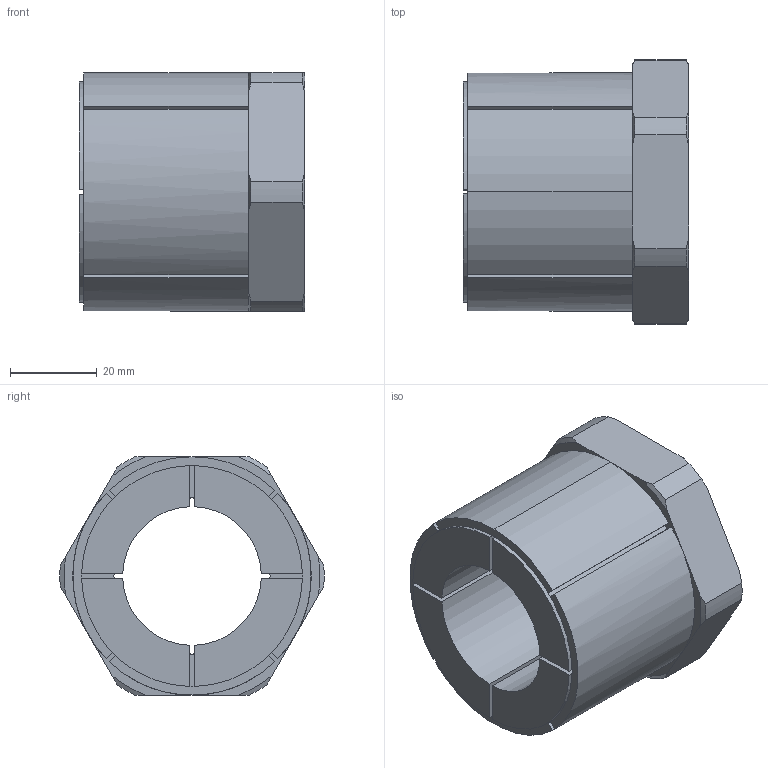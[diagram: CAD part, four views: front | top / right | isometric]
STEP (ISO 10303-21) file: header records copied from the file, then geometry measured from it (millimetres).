
FILE_DESCRIPTION (( 'STEP AP203' ), '1' );
FILE_NAME ('KBS 58 - 32 x 55.STEP', '2015-07-05T19:59:34', ( '' ), ( '' ), 'SwSTEP 2.0', 'SolidWorks 2010', '' );
FILE_SCHEMA (( 'CONFIG_CONTROL_DESIGN' ));
Length unit declared in the file: millimetre
Products named in the file (1): KBS 58 - 32 x 55
Bounding box: 52 x 60.98 x 55 mm (x, y, z)
Volume: 81857.2 mm3; surface area: 22416 mm2
Topology: 1 solids, 1 shells, 84 faces, 231 edges, 149 vertices
Faces by surface type: plane 42, cylinder 26, cone 16
Entity records: 2817 total; most frequent: CARTESIAN_POINT 585, ORIENTED_EDGE 462, DIRECTION 454, EDGE_CURVE 231, AXIS2_PLACEMENT_3D 170, VERTEX_POINT 149, VECTOR 114, LINE 114
